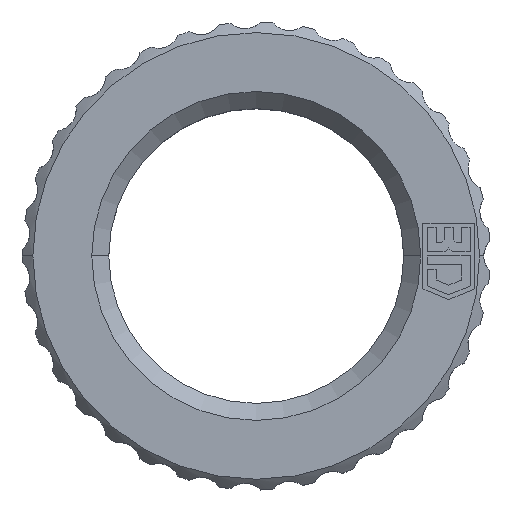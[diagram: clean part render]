
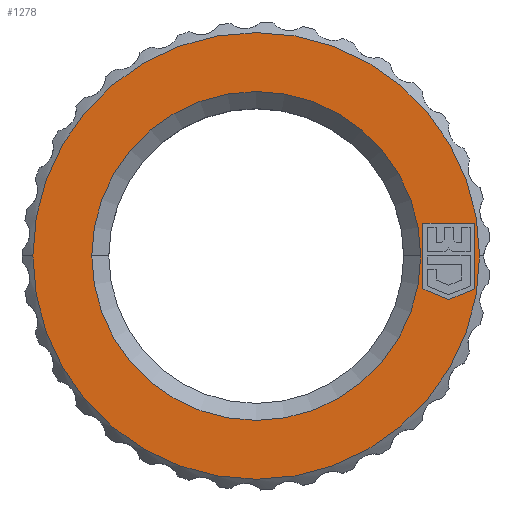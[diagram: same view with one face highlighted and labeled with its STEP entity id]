
A CAD part, top view. The second image highlights one B-rep face of the part: STEP entity #1278.
In plain terms, the highlighted planar face has unit normal (0, 0, 1).
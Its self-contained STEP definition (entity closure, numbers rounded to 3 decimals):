
#33 = EDGE_CURVE ( 'NONE', #34, #46, #2757, .T. ) ;
#34 = VERTEX_POINT ( 'NONE', #2751 ) ;
#46 = VERTEX_POINT ( 'NONE', #2940 ) ;
#1050 = DIRECTION ( 'NONE',  ( 0., 1., 0. ) ) ;
#1051 = VECTOR ( 'NONE', #1050, 1000. ) ;
#1163 = CARTESIAN_POINT ( 'NONE',  ( 7.835, -1.549, 0. ) ) ;
#1164 = LINE ( 'NONE', #1163, #1051 ) ;
#1248 = VERTEX_POINT ( 'NONE', #3407 ) ;
#1255 = ORIENTED_EDGE ( 'NONE', *, *, #1296, .T. ) ;
#1256 = VERTEX_POINT ( 'NONE', #3394 ) ;
#1261 = ORIENTED_EDGE ( 'NONE', *, *, #1262, .T. ) ;
#1262 = EDGE_CURVE ( 'NONE', #1283, #1264, #3383, .T. ) ;
#1264 = VERTEX_POINT ( 'NONE', #3509 ) ;
#1265 = ORIENTED_EDGE ( 'NONE', *, *, #33, .T. ) ;
#1271 = ORIENTED_EDGE ( 'NONE', *, *, #1289, .T. ) ;
#1272 = EDGE_LOOP ( 'NONE', ( #1265, #1293 ) ) ;
#1278 = ADVANCED_FACE ( 'NONE', ( #3638, #3637, #3636 ), #3635, .F. ) ;
#1279 = EDGE_LOOP ( 'NONE', ( #1255, #1280 ) ) ;
#1280 = ORIENTED_EDGE ( 'NONE', *, *, #1405, .T. ) ;
#1281 = ORIENTED_EDGE ( 'NONE', *, *, #1282, .T. ) ;
#1282 = EDGE_CURVE ( 'NONE', #1248, #1283, #3628, .T. ) ;
#1283 = VERTEX_POINT ( 'NONE', #3623 ) ;
#1289 = EDGE_CURVE ( 'NONE', #1264, #1256, #3607, .T. ) ;
#1290 = VERTEX_POINT ( 'NONE', #3603 ) ;
#1291 = ORIENTED_EDGE ( 'NONE', *, *, #1292, .T. ) ;
#1292 = EDGE_CURVE ( 'NONE', #1290, #1248, #3602, .T. ) ;
#1293 = ORIENTED_EDGE ( 'NONE', *, *, #1294, .T. ) ;
#1294 = EDGE_CURVE ( 'NONE', #46, #34, #3598, .T. ) ;
#1295 = EDGE_LOOP ( 'NONE', ( #1271, #4268, #1291, #1281, #1261 ) ) ;
#1296 = EDGE_CURVE ( 'NONE', #1384, #1392, #3593, .T. ) ;
#1384 = VERTEX_POINT ( 'NONE', #3879 ) ;
#1392 = VERTEX_POINT ( 'NONE', #3850 ) ;
#1405 = EDGE_CURVE ( 'NONE', #1392, #1384, #3805, .T. ) ;
#2751 = CARTESIAN_POINT ( 'NONE',  ( 7.73, 0., 0. ) ) ;
#2752 = DIRECTION ( 'NONE',  ( -1., 0., 0. ) ) ;
#2754 = DIRECTION ( 'NONE',  ( 0., 0., -1. ) ) ;
#2755 = CARTESIAN_POINT ( 'NONE',  ( 0., 0., 0. ) ) ;
#2756 = AXIS2_PLACEMENT_3D ( 'NONE', #2755, #2754, #2752 ) ;
#2757 = CIRCLE ( 'NONE', #2756, 7.73 ) ;
#2940 = CARTESIAN_POINT ( 'NONE',  ( -7.73, 0., 0. ) ) ;
#3383 = LINE ( 'NONE', #3512, #3511 ) ;
#3394 = CARTESIAN_POINT ( 'NONE',  ( 7.835, -1.549, 0. ) ) ;
#3407 = CARTESIAN_POINT ( 'NONE',  ( 10.265, 1.548, 0. ) ) ;
#3509 = CARTESIAN_POINT ( 'NONE',  ( 9.05, -2.052, 0. ) ) ;
#3510 = DIRECTION ( 'NONE',  ( -0.924, -0.383, 0. ) ) ;
#3511 = VECTOR ( 'NONE', #3510, 1000. ) ;
#3512 = CARTESIAN_POINT ( 'NONE',  ( 9.05, -2.052, 0. ) ) ;
#3589 = DIRECTION ( 'NONE',  ( 1., 0., 0. ) ) ;
#3590 = DIRECTION ( 'NONE',  ( 0., 0., 1. ) ) ;
#3591 = CARTESIAN_POINT ( 'NONE',  ( 0., 0., 0. ) ) ;
#3592 = AXIS2_PLACEMENT_3D ( 'NONE', #3591, #3590, #3589 ) ;
#3593 = CIRCLE ( 'NONE', #3592, 10.5 ) ;
#3594 = DIRECTION ( 'NONE',  ( -1., 0., 0. ) ) ;
#3595 = DIRECTION ( 'NONE',  ( 0., 0., -1. ) ) ;
#3596 = CARTESIAN_POINT ( 'NONE',  ( 0., 0., 0. ) ) ;
#3597 = AXIS2_PLACEMENT_3D ( 'NONE', #3596, #3595, #3594 ) ;
#3598 = CIRCLE ( 'NONE', #3597, 7.73 ) ;
#3599 = DIRECTION ( 'NONE',  ( 1., 0., 0. ) ) ;
#3600 = VECTOR ( 'NONE', #3599, 1000. ) ;
#3601 = CARTESIAN_POINT ( 'NONE',  ( 7.835, 1.548, 0. ) ) ;
#3602 = LINE ( 'NONE', #3601, #3600 ) ;
#3603 = CARTESIAN_POINT ( 'NONE',  ( 7.835, 1.548, 0. ) ) ;
#3604 = DIRECTION ( 'NONE',  ( -0.924, 0.383, 0. ) ) ;
#3605 = VECTOR ( 'NONE', #3604, 1000. ) ;
#3606 = CARTESIAN_POINT ( 'NONE',  ( 9.05, -2.052, 0. ) ) ;
#3607 = LINE ( 'NONE', #3606, #3605 ) ;
#3623 = CARTESIAN_POINT ( 'NONE',  ( 10.265, -1.549, 0. ) ) ;
#3625 = DIRECTION ( 'NONE',  ( 0., -1., 0. ) ) ;
#3626 = VECTOR ( 'NONE', #3625, 1000. ) ;
#3627 = CARTESIAN_POINT ( 'NONE',  ( 10.265, 1.548, 0. ) ) ;
#3628 = LINE ( 'NONE', #3627, #3626 ) ;
#3631 = DIRECTION ( 'NONE',  ( -1., 0., 0. ) ) ;
#3632 = DIRECTION ( 'NONE',  ( 0., 0., -1. ) ) ;
#3633 = CARTESIAN_POINT ( 'NONE',  ( 0., 0., 0. ) ) ;
#3634 = AXIS2_PLACEMENT_3D ( 'NONE', #3633, #3632, #3631 ) ;
#3635 = PLANE ( 'NONE',  #3634 ) ;
#3636 = FACE_BOUND ( 'NONE', #1295, .T. ) ;
#3637 = FACE_BOUND ( 'NONE', #1272, .T. ) ;
#3638 = FACE_OUTER_BOUND ( 'NONE', #1279, .T. ) ;
#3799 = DIRECTION ( 'NONE',  ( 1., 0., 0. ) ) ;
#3800 = DIRECTION ( 'NONE',  ( 0., 0., 1. ) ) ;
#3801 = CARTESIAN_POINT ( 'NONE',  ( 0., 0., 0. ) ) ;
#3803 = AXIS2_PLACEMENT_3D ( 'NONE', #3801, #3800, #3799 ) ;
#3805 = CIRCLE ( 'NONE', #3803, 10.5 ) ;
#3850 = CARTESIAN_POINT ( 'NONE',  ( 10.5, 0., 0. ) ) ;
#3879 = CARTESIAN_POINT ( 'NONE',  ( -10.5, 0., 0. ) ) ;
#4268 = ORIENTED_EDGE ( 'NONE', *, *, #4269, .T. ) ;
#4269 = EDGE_CURVE ( 'NONE', #1256, #1290, #1164, .T. ) ;
